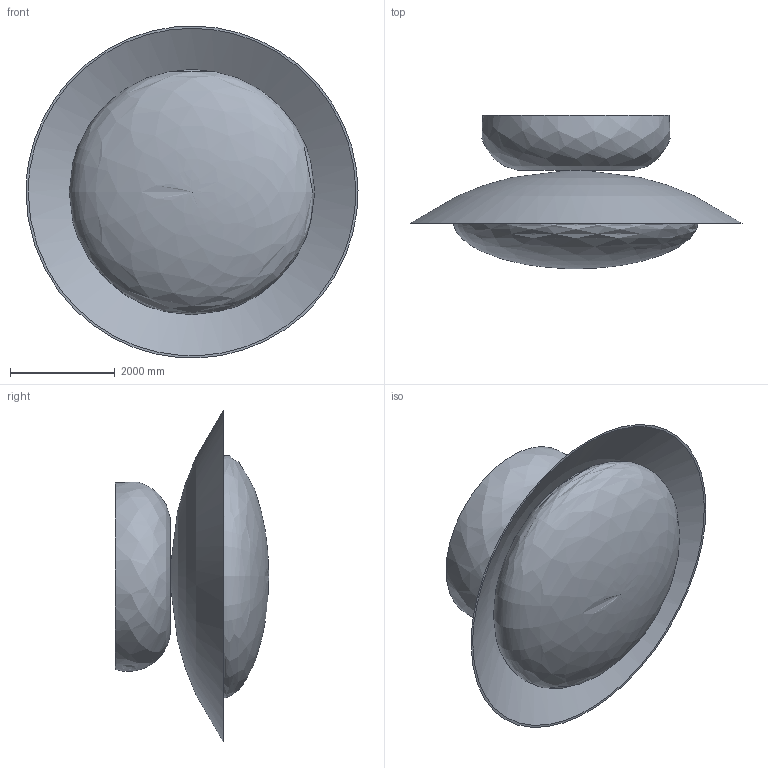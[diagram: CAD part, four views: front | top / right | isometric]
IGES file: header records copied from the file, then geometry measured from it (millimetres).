
Global section: file name: Paulo Ceiling Light; native system: AutoCAD 2022 - 简体中文 (Simplified Chinese),62HAuto; preprocessor: desk Translation Framework DWG producer (atf_dwg_producer); organization: unknown; date: 20250326.095956; units: inch
Bounding box: 6349.84 x 2931.75 x 6346.49 mm (x, y, z)
Volume: 42639686036.9 mm3; surface area: 192234792.9 mm2
Topology: 4 solids, 4 shells, 11 faces, 23 edges, 18 vertices
Faces by surface type: bspline 11
